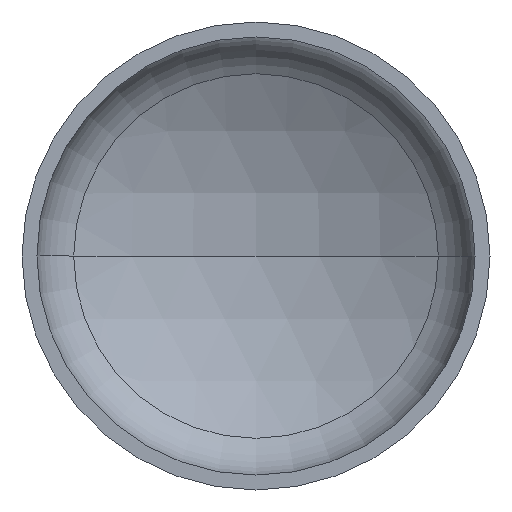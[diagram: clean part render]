
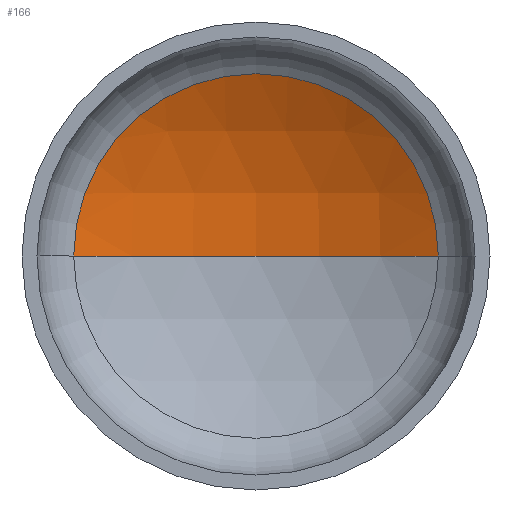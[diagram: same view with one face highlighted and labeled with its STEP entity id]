
A CAD part, front view. The second image highlights one B-rep face of the part: STEP entity #166.
In plain terms, the highlighted spherical face has radius 2560 mm.
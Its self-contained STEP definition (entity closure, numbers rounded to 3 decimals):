
#10 = AXIS2_PLACEMENT_3D ( 'NONE', #171, #267, #110 ) ;
#22 = EDGE_LOOP ( 'NONE', ( #40, #46, #397 ) ) ;
#33 = AXIS2_PLACEMENT_3D ( 'NONE', #42, #400, #211 ) ;
#37 = AXIS2_PLACEMENT_3D ( 'NONE', #286, #189, #209 ) ;
#40 = ORIENTED_EDGE ( 'NONE', *, *, #356, .F. ) ;
#42 = CARTESIAN_POINT ( 'NONE',  ( 0., -1732.992, 0. ) ) ;
#46 = ORIENTED_EDGE ( 'NONE', *, *, #136, .T. ) ;
#47 = AXIS2_PLACEMENT_3D ( 'NONE', #205, #335, #195 ) ;
#51 = VERTEX_POINT ( 'NONE', #369 ) ;
#82 = FACE_OUTER_BOUND ( 'NONE', #22, .T. ) ;
#96 = EDGE_CURVE ( 'NONE', #109, #227, #320, .T. ) ;
#109 = VERTEX_POINT ( 'NONE', #197 ) ;
#110 = DIRECTION ( 'NONE',  ( 1., 0., 0. ) ) ;
#136 = EDGE_CURVE ( 'NONE', #51, #109, #191, .T. ) ;
#166 = ADVANCED_FACE ( 'NONE', ( #82 ), #377, .F. ) ;
#171 = CARTESIAN_POINT ( 'NONE',  ( 0., -1732.992, 0. ) ) ;
#189 = DIRECTION ( 'NONE',  ( 0., 0., -1. ) ) ;
#191 = CIRCLE ( 'NONE', #37, 2560. ) ;
#195 = DIRECTION ( 'NONE',  ( 1., 0., 0. ) ) ;
#197 = CARTESIAN_POINT ( 'NONE',  ( 1246.609, 502.979, 0. ) ) ;
#205 = CARTESIAN_POINT ( 'NONE',  ( 0., 502.979, 0. ) ) ;
#209 = DIRECTION ( 'NONE',  ( -1., 0., 0. ) ) ;
#211 = DIRECTION ( 'NONE',  ( -1., 0., 0. ) ) ;
#227 = VERTEX_POINT ( 'NONE', #285 ) ;
#267 = DIRECTION ( 'NONE',  ( 0., 0., 1. ) ) ;
#280 = CIRCLE ( 'NONE', #10, 2560. ) ;
#285 = CARTESIAN_POINT ( 'NONE',  ( -1246.609, 502.979, 0. ) ) ;
#286 = CARTESIAN_POINT ( 'NONE',  ( 0., -1732.992, 0. ) ) ;
#320 = CIRCLE ( 'NONE', #47, 1246.609 ) ;
#335 = DIRECTION ( 'NONE',  ( 0., -1., 0. ) ) ;
#356 = EDGE_CURVE ( 'NONE', #51, #227, #280, .T. ) ;
#369 = CARTESIAN_POINT ( 'NONE',  ( 0., 827.008, 0. ) ) ;
#377 = SPHERICAL_SURFACE ( 'NONE', #33, 2560. ) ;
#397 = ORIENTED_EDGE ( 'NONE', *, *, #96, .T. ) ;
#400 = DIRECTION ( 'NONE',  ( 0., 0., -1. ) ) ;
